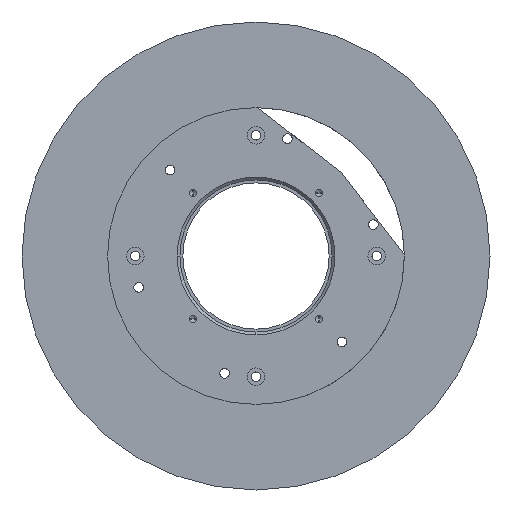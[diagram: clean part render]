
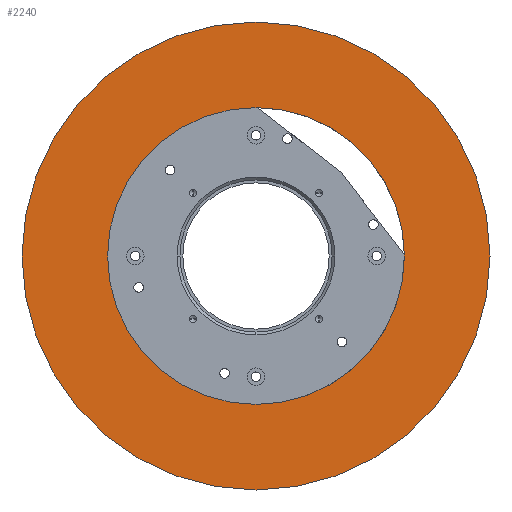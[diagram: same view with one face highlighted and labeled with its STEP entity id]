
A CAD part, front view. The second image highlights one B-rep face of the part: STEP entity #2240.
In plain terms, the highlighted planar face has unit normal (0, -1, 0).
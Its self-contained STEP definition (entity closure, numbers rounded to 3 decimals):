
#7 = CIRCLE ( 'NONE', #3135, 80. ) ;
#86 = AXIS2_PLACEMENT_3D ( 'NONE', #2676, #3881, #2118 ) ;
#165 = ORIENTED_EDGE ( 'NONE', *, *, #247, .F. ) ;
#247 = EDGE_CURVE ( 'NONE', #2505, #1821, #3695, .T. ) ;
#298 = PLANE ( 'NONE',  #734 ) ;
#482 = DIRECTION ( 'NONE',  ( 0., -1., 0. ) ) ;
#544 = EDGE_CURVE ( 'NONE', #1444, #1880, #7, .T. ) ;
#570 = CARTESIAN_POINT ( 'NONE',  ( 0., -21., 0. ) ) ;
#734 = AXIS2_PLACEMENT_3D ( 'NONE', #3659, #1242, #2153 ) ;
#1032 = AXIS2_PLACEMENT_3D ( 'NONE', #1556, #482, #3242 ) ;
#1055 = DIRECTION ( 'NONE',  ( 0., -1., 0. ) ) ;
#1099 = CIRCLE ( 'NONE', #3324, 50.75 ) ;
#1192 = EDGE_CURVE ( 'NONE', #1821, #2505, #1099, .T. ) ;
#1211 = DIRECTION ( 'NONE',  ( 0., 0., -1. ) ) ;
#1242 = DIRECTION ( 'NONE',  ( 0., -1., 0. ) ) ;
#1403 = CARTESIAN_POINT ( 'NONE',  ( 0., -21., -80. ) ) ;
#1444 = VERTEX_POINT ( 'NONE', #2304 ) ;
#1556 = CARTESIAN_POINT ( 'NONE',  ( 0., -21., 0. ) ) ;
#1651 = CARTESIAN_POINT ( 'NONE',  ( 0., -21., 0. ) ) ;
#1821 = VERTEX_POINT ( 'NONE', #3077 ) ;
#1880 = VERTEX_POINT ( 'NONE', #1403 ) ;
#1945 = CARTESIAN_POINT ( 'NONE',  ( 0., -21., 50.75 ) ) ;
#1957 = EDGE_LOOP ( 'NONE', ( #165, #2962 ) ) ;
#2003 = EDGE_CURVE ( 'NONE', #1880, #1444, #3460, .T. ) ;
#2118 = DIRECTION ( 'NONE',  ( 0., 0., -1. ) ) ;
#2153 = DIRECTION ( 'NONE',  ( 0., 0., -1. ) ) ;
#2240 = ADVANCED_FACE ( 'NONE', ( #2732, #3035 ), #298, .T. ) ;
#2304 = CARTESIAN_POINT ( 'NONE',  ( 0., -21., 80. ) ) ;
#2324 = EDGE_LOOP ( 'NONE', ( #3762, #2583 ) ) ;
#2481 = DIRECTION ( 'NONE',  ( 0., 0., -1. ) ) ;
#2505 = VERTEX_POINT ( 'NONE', #1945 ) ;
#2583 = ORIENTED_EDGE ( 'NONE', *, *, #2003, .T. ) ;
#2676 = CARTESIAN_POINT ( 'NONE',  ( 0., -21., 0. ) ) ;
#2732 = FACE_BOUND ( 'NONE', #1957, .T. ) ;
#2742 = DIRECTION ( 'NONE',  ( 0., -1., 0. ) ) ;
#2962 = ORIENTED_EDGE ( 'NONE', *, *, #1192, .F. ) ;
#3035 = FACE_OUTER_BOUND ( 'NONE', #2324, .T. ) ;
#3077 = CARTESIAN_POINT ( 'NONE',  ( 0., -21., -50.75 ) ) ;
#3135 = AXIS2_PLACEMENT_3D ( 'NONE', #1651, #1055, #2481 ) ;
#3242 = DIRECTION ( 'NONE',  ( 0., 0., -1. ) ) ;
#3324 = AXIS2_PLACEMENT_3D ( 'NONE', #570, #2742, #1211 ) ;
#3460 = CIRCLE ( 'NONE', #86, 80. ) ;
#3659 = CARTESIAN_POINT ( 'NONE',  ( 0., -21., 0. ) ) ;
#3695 = CIRCLE ( 'NONE', #1032, 50.75 ) ;
#3762 = ORIENTED_EDGE ( 'NONE', *, *, #544, .T. ) ;
#3881 = DIRECTION ( 'NONE',  ( 0., -1., 0. ) ) ;
